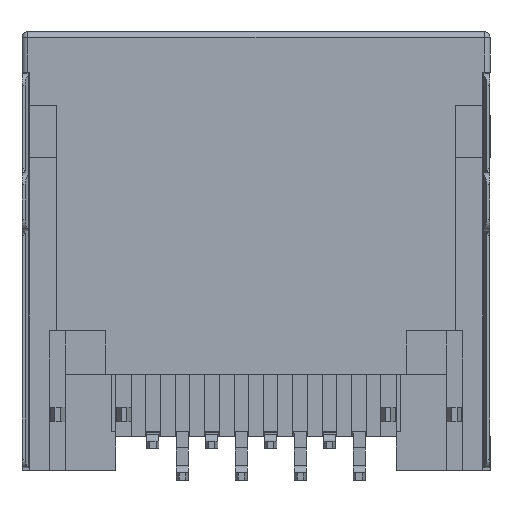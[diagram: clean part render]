
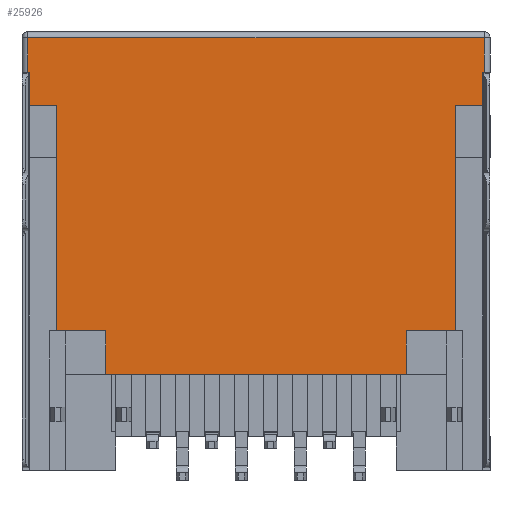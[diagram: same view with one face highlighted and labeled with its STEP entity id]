
A CAD part, front view. The second image highlights one B-rep face of the part: STEP entity #25926.
In plain terms, the highlighted planar face has unit normal (0, -1, 0).
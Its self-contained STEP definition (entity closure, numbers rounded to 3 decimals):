
#18191=DIRECTION('',(-1.,0.,0.));
#18192=VECTOR('',#18191,0.05);
#18193=CARTESIAN_POINT('',(7.9,-9.7,-1.4));
#18194=LINE('',#18193,#18192);
#18195=DIRECTION('',(0.,0.,-1.));
#18196=VECTOR('',#18195,1.15);
#18197=CARTESIAN_POINT('',(7.85,-9.7,-1.4));
#18198=LINE('',#18197,#18196);
#18199=DIRECTION('',(0.,0.,1.));
#18200=VECTOR('',#18199,1.15);
#18201=CARTESIAN_POINT('',(-7.85,-9.7,-2.55));
#18202=LINE('',#18201,#18200);
#18203=DIRECTION('',(-1.,0.,0.));
#18204=VECTOR('',#18203,0.05);
#18205=CARTESIAN_POINT('',(-7.85,-9.7,-1.4));
#18206=LINE('',#18205,#18204);
#18207=DIRECTION('',(-1.,0.,0.));
#18208=VECTOR('',#18207,15.8);
#18209=CARTESIAN_POINT('',(7.9,-9.7,-0.2));
#18210=LINE('',#18209,#18208);
#19029=DIRECTION('',(1.,0.,0.));
#19030=VECTOR('',#19029,10.4);
#19031=CARTESIAN_POINT('',(-5.2,-9.7,-11.85));
#19032=LINE('',#19031,#19030);
#21720=DIRECTION('',(0.,0.,-1.));
#21721=VECTOR('',#21720,7.8);
#21722=CARTESIAN_POINT('',(-6.9,-9.7,-2.55));
#21723=LINE('',#21722,#21721);
#21760=DIRECTION('',(1.,0.,0.));
#21761=VECTOR('',#21760,0.95);
#21762=CARTESIAN_POINT('',(-7.85,-9.7,-2.55));
#21763=LINE('',#21762,#21761);
#21776=DIRECTION('',(1.,0.,0.));
#21777=VECTOR('',#21776,1.7);
#21778=CARTESIAN_POINT('',(-6.9,-9.7,-10.35));
#21779=LINE('',#21778,#21777);
#21796=DIRECTION('',(0.,0.,-1.));
#21797=VECTOR('',#21796,1.5);
#21798=CARTESIAN_POINT('',(-5.2,-9.7,-10.35));
#21799=LINE('',#21798,#21797);
#21888=DIRECTION('',(0.,0.,1.));
#21889=VECTOR('',#21888,1.5);
#21890=CARTESIAN_POINT('',(5.2,-9.7,-11.85));
#21891=LINE('',#21890,#21889);
#21912=DIRECTION('',(1.,0.,0.));
#21913=VECTOR('',#21912,1.7);
#21914=CARTESIAN_POINT('',(5.2,-9.7,-10.35));
#21915=LINE('',#21914,#21913);
#21932=DIRECTION('',(0.,0.,1.));
#21933=VECTOR('',#21932,7.8);
#21934=CARTESIAN_POINT('',(6.9,-9.7,-10.35));
#21935=LINE('',#21934,#21933);
#21952=DIRECTION('',(1.,0.,0.));
#21953=VECTOR('',#21952,0.95);
#21954=CARTESIAN_POINT('',(6.9,-9.7,-2.55));
#21955=LINE('',#21954,#21953);
#23185=DIRECTION('',(0.,0.,1.));
#23186=VECTOR('',#23185,1.2);
#23187=CARTESIAN_POINT('',(7.9,-9.7,-1.4));
#23188=LINE('',#23187,#23186);
#23224=DIRECTION('',(0.,0.,-1.));
#23225=VECTOR('',#23224,1.2);
#23226=CARTESIAN_POINT('',(-7.9,-9.7,-0.2));
#23227=LINE('',#23226,#23225);
#23473=CARTESIAN_POINT('',(-7.85,-9.7,-1.4));
#23474=VERTEX_POINT('',#23473);
#23534=CARTESIAN_POINT('',(-7.9,-9.7,-1.4));
#23536=VERTEX_POINT('',#23534);
#23679=CARTESIAN_POINT('',(7.85,-9.7,-2.55));
#23681=VERTEX_POINT('',#23679);
#23683=CARTESIAN_POINT('',(7.85,-9.7,-1.4));
#23684=VERTEX_POINT('',#23683);
#23711=CARTESIAN_POINT('',(7.9,-9.7,-1.4));
#23713=VERTEX_POINT('',#23711);
#23719=CARTESIAN_POINT('',(5.2,-9.7,-11.85));
#23720=CARTESIAN_POINT('',(5.2,-9.7,-10.35));
#23721=VERTEX_POINT('',#23719);
#23722=VERTEX_POINT('',#23720);
#23723=CARTESIAN_POINT('',(-5.2,-9.7,-11.85));
#23724=VERTEX_POINT('',#23723);
#23725=CARTESIAN_POINT('',(-7.85,-9.7,-2.55));
#23726=VERTEX_POINT('',#23725);
#23731=CARTESIAN_POINT('',(7.9,-9.7,-0.2));
#23732=CARTESIAN_POINT('',(-7.9,-9.7,-0.2));
#23733=VERTEX_POINT('',#23731);
#23734=VERTEX_POINT('',#23732);
#24954=CARTESIAN_POINT('',(-6.9,-9.7,-2.55));
#24956=VERTEX_POINT('',#24954);
#24958=CARTESIAN_POINT('',(-6.9,-9.7,-10.35));
#24959=VERTEX_POINT('',#24958);
#24972=CARTESIAN_POINT('',(-5.2,-9.7,-10.35));
#24973=VERTEX_POINT('',#24972);
#24986=CARTESIAN_POINT('',(6.9,-9.7,-10.35));
#24987=VERTEX_POINT('',#24986);
#24994=CARTESIAN_POINT('',(6.9,-9.7,-2.55));
#24995=VERTEX_POINT('',#24994);
#25891=CARTESIAN_POINT('',(0.,-9.7,-6.025));
#25892=DIRECTION('',(0.,1.,0.));
#25893=DIRECTION('',(0.,0.,-1.));
#25894=AXIS2_PLACEMENT_3D('',#25891,#25892,#25893);
#25895=PLANE('',#25894);
#25897=ORIENTED_EDGE('',*,*,#25896,.F.);
#25899=ORIENTED_EDGE('',*,*,#25898,.F.);
#25900=ORIENTED_EDGE('',*,*,#25874,.T.);
#25901=ORIENTED_EDGE('',*,*,#25780,.T.);
#25903=ORIENTED_EDGE('',*,*,#25902,.F.);
#25905=ORIENTED_EDGE('',*,*,#25904,.F.);
#25907=ORIENTED_EDGE('',*,*,#25906,.F.);
#25909=ORIENTED_EDGE('',*,*,#25908,.F.);
#25911=ORIENTED_EDGE('',*,*,#25910,.F.);
#25913=ORIENTED_EDGE('',*,*,#25912,.F.);
#25915=ORIENTED_EDGE('',*,*,#25914,.F.);
#25917=ORIENTED_EDGE('',*,*,#25916,.F.);
#25919=ORIENTED_EDGE('',*,*,#25918,.F.);
#25920=ORIENTED_EDGE('',*,*,#25250,.T.);
#25921=ORIENTED_EDGE('',*,*,#25369,.T.);
#25923=ORIENTED_EDGE('',*,*,#25922,.F.);
#25924=EDGE_LOOP('',(#25897,#25899,#25900,#25901,#25903,#25905,#25907,#25909,
#25911,#25913,#25915,#25917,#25919,#25920,#25921,#25923));
#25925=FACE_OUTER_BOUND('',#25924,.F.);
#25926=ADVANCED_FACE('',(#25925),#25895,.F.);
#25250=EDGE_CURVE('',#23726,#23474,#18202,.T.);
#25369=EDGE_CURVE('',#23474,#23536,#18206,.T.);
#25780=EDGE_CURVE('',#23684,#23681,#18198,.T.);
#25874=EDGE_CURVE('',#23713,#23684,#18194,.T.);
#25896=EDGE_CURVE('',#23733,#23734,#18210,.T.);
#25898=EDGE_CURVE('',#23713,#23733,#23188,.T.);
#25902=EDGE_CURVE('',#24995,#23681,#21955,.T.);
#25904=EDGE_CURVE('',#24987,#24995,#21935,.T.);
#25906=EDGE_CURVE('',#23722,#24987,#21915,.T.);
#25908=EDGE_CURVE('',#23721,#23722,#21891,.T.);
#25910=EDGE_CURVE('',#23724,#23721,#19032,.T.);
#25912=EDGE_CURVE('',#24973,#23724,#21799,.T.);
#25914=EDGE_CURVE('',#24959,#24973,#21779,.T.);
#25916=EDGE_CURVE('',#24956,#24959,#21723,.T.);
#25918=EDGE_CURVE('',#23726,#24956,#21763,.T.);
#25922=EDGE_CURVE('',#23734,#23536,#23227,.T.);
